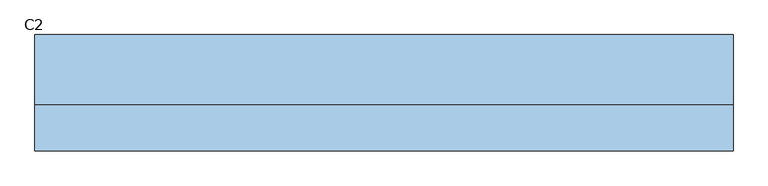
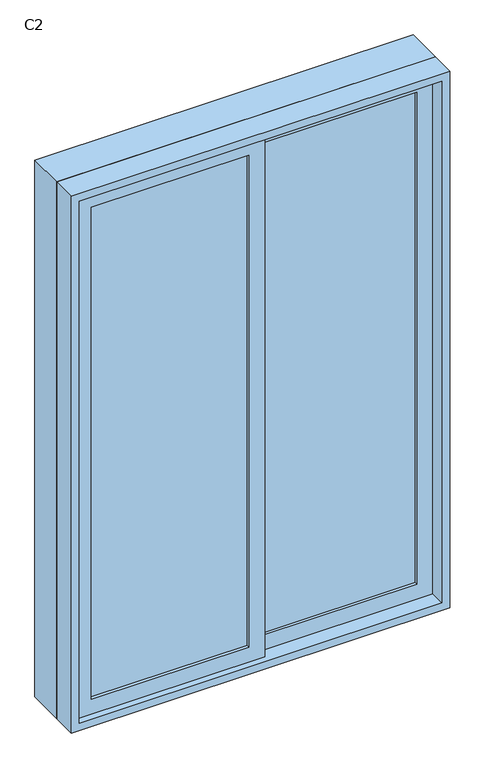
"""IFC4 building model written with IfcOpenShell, lengths in millimetres: window geometry, 推拉窗6 : C2."""

from ifc_helpers import new_model, si_unit, frame, origin, place, context, project, spatial, polyline, outline, extrude, source, transform, mapped, element, save


def c2_33a41daa(model_context):
    return source(origin(), model_context, "Body", "SweptSolid", [
        extrude(outline(polyline([(-515.475, -3.1265625), (-515.475, 6.8734375), (-15.475, 6.8734375), (-15.475, -3.1265625), (-515.475, -3.1265625)])), frame((0.0, 0.0, 975.0), z_axis=(0.0, 0.0, 1.0), x_axis=(1.0, 0.0, 0.0)), (0.0, 0.0, 1.0), 1650.0),
        extrude(outline(polyline([(34.525, 26.8734375), (34.525, 36.8734375), (534.525, 36.8734375), (534.525, 26.8734375), (34.525, 26.8734375)])), frame((0.0, 0.0, 975.0), z_axis=(0.0, 0.0, 1.0), x_axis=(1.0, 0.0, 0.0)), (0.0, 0.0, 1.0), 1650.0),
        extrude(outline(polyline([(2700.0, -590.475), (900.0, -590.475), (900.0, 609.525), (2700.0, 609.525), (2700.0, -590.475)]), holes=[polyline([(2645.0, 559.525), (955.0, 559.525), (955.0, -540.475), (2645.0, -540.475), (2645.0, 559.525)])]), frame((0.0, 46.8734375, 0.0), z_axis=(0.0, 1.0, 0.0), x_axis=(0.0, 0.0, 1.0)), (0.0, 0.0, 1.0), 120.0),
        extrude(outline(polyline([(925.0, 34.525), (2675.0, 34.525), (2675.0, -565.475), (925.0, -565.475), (925.0, 34.525)]), holes=[polyline([(975.0, -15.475), (975.0, -515.475), (2625.0, -515.475), (2625.0, -15.475), (975.0, -15.475)])]), frame((0.0, -13.1265625, 0.0), z_axis=(0.0, 1.0, 0.0), x_axis=(0.0, 0.0, 1.0)), (0.0, 0.0, 1.0), 30.0),
        extrude(outline(polyline([(2675.0, -15.475), (925.0, -15.475), (925.0, 584.525), (2675.0, 584.525), (2675.0, -15.475)]), holes=[polyline([(2625.0, 34.525), (2625.0, 534.525), (975.0, 534.525), (975.0, 34.525), (2625.0, 34.525)])]), frame((0.0, 16.8734375, 0.0), z_axis=(0.0, 1.0, 0.0), x_axis=(0.0, 0.0, 1.0)), (0.0, 0.0, 1.0), 30.0),
        extrude(outline(polyline([(2700.0, -590.475), (900.0, -590.475), (900.0, 609.525), (2700.0, 609.525), (2700.0, -590.475)]), holes=[polyline([(925.0, -565.475), (2675.0, -565.475), (2675.0, 584.525), (925.0, 584.525), (925.0, -565.475)])]), frame((0.0, -33.1265625, 0.0), z_axis=(0.0, 1.0, 0.0), x_axis=(0.0, 0.0, 1.0)), (0.0, 0.0, 1.0), 80.0),
    ])


if __name__ == "__main__":
    model = new_model("IFC4")
    model_context = context("Model", 3, world=origin())
    ifc_project = project(units=[si_unit("LENGTHUNIT", "METRE", prefix="MILLI")], contexts=[model_context])
    site = spatial("IfcSite", under=ifc_project)
    building = spatial("IfcBuilding", under=site)
    placement = place(None, origin())
    c2_shape = c2_33a41daa(model_context)
    element("IfcWindow", 1, ObjectType="推拉窗6 : C2", at=placement, inside=building, context=model_context, shape_type="MappedRepresentation", body=[
        mapped(c2_shape, transform((0.0, 0.0, 0.0), x_axis=(1.0, 0.0, 0.0), y_axis=(0.0, 1.0, 0.0), z_axis=(0.0, 0.0, 1.0))),
    ])
    save(model, "model.ifc")
